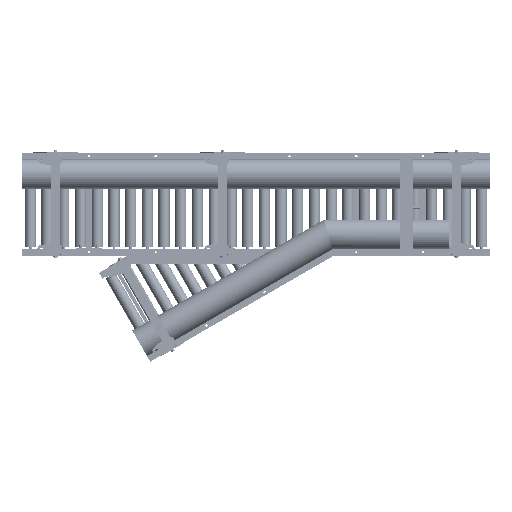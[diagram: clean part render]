
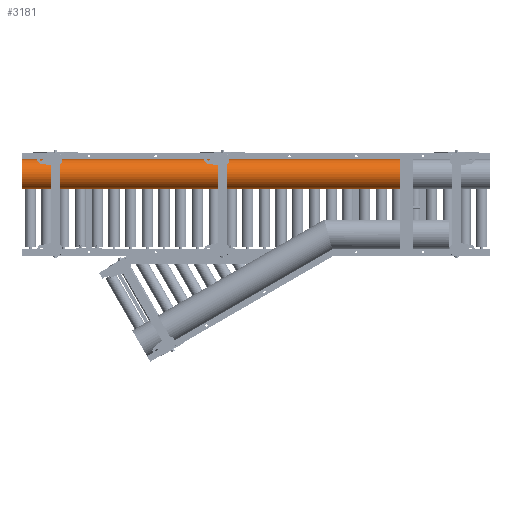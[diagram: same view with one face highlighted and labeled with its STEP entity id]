
A CAD part, front view. The second image highlights one B-rep face of the part: STEP entity #3181.
In plain terms, the highlighted cylindrical face has radius 66.89 mm (diameter 133.78 mm), a partial arc.
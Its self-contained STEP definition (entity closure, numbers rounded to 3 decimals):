
#3181=ADVANCED_FACE('',(#13515),#13514,.T.);
#13514=CYLINDRICAL_SURFACE('',#52578,66.89);
#13515=FACE_OUTER_BOUND('',#52579,.T.);
#52575=CARTESIAN_POINT('',(-2277.652,-150.,135.11));
#52576=DIRECTION('',(-1.,0.,0.));
#52577=DIRECTION('',(0.,0.,1.));
#52578=AXIS2_PLACEMENT_3D('',#52575,#52576,#52577);
#52579=EDGE_LOOP('',(#75314,#75315,#75316,#75317));
#75314=ORIENTED_EDGE('',*,*,#95160,.T.);
#75315=ORIENTED_EDGE('',*,*,#95161,.T.);
#75316=ORIENTED_EDGE('',*,*,#92855,.F.);
#75317=ORIENTED_EDGE('',*,*,#93967,.F.);
#92855=EDGE_CURVE('',#104243,#104244,#104245,.T.);
#93967=EDGE_CURVE('',#111734,#104243,#111741,.T.);
#95160=EDGE_CURVE('',#111734,#119635,#119636,.T.);
#95161=EDGE_CURVE('',#119635,#104244,#119642,.T.);
#104243=VERTEX_POINT('',#177416);
#104244=VERTEX_POINT('',#177417);
#104245=LINE('',#177418,#177419);
#111734=VERTEX_POINT('',#181805);
#111741=CIRCLE('',#181812,66.89);
#119635=VERTEX_POINT('',#186299);
#119636=LINE('',#186300,#186301);
#119642=CIRCLE('',#186306,66.89);
#177416=CARTESIAN_POINT('',(-2100.,-150.,202.));
#177417=CARTESIAN_POINT('',(-402.5,-150.,202.));
#177418=CARTESIAN_POINT('',(-2100.,-150.,202.));
#177419=VECTOR('',#177420,1697.5);
#177420=DIRECTION('',(1.,0.,0.));
#181805=CARTESIAN_POINT('',(-2100.,-150.,68.22));
#181809=CARTESIAN_POINT('',(-2100.,-150.,135.11));
#181810=DIRECTION('',(-1.,0.,0.));
#181811=DIRECTION('',(0.,0.,1.));
#181812=AXIS2_PLACEMENT_3D('',#181809,#181810,#181811);
#186299=CARTESIAN_POINT('',(-402.5,-150.,68.22));
#186300=CARTESIAN_POINT('',(-2100.,-150.,68.22));
#186301=VECTOR('',#186302,1697.5);
#186302=DIRECTION('',(1.,0.,0.));
#186303=CARTESIAN_POINT('',(-402.5,-150.,135.11));
#186304=DIRECTION('',(-1.,0.,0.));
#186305=DIRECTION('',(0.,0.,1.));
#186306=AXIS2_PLACEMENT_3D('',#186303,#186304,#186305);
